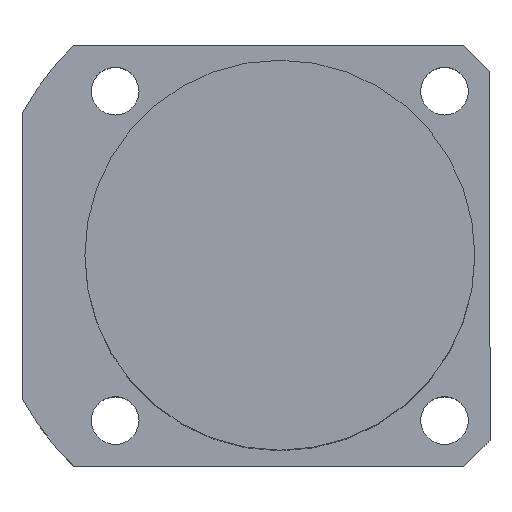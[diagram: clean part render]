
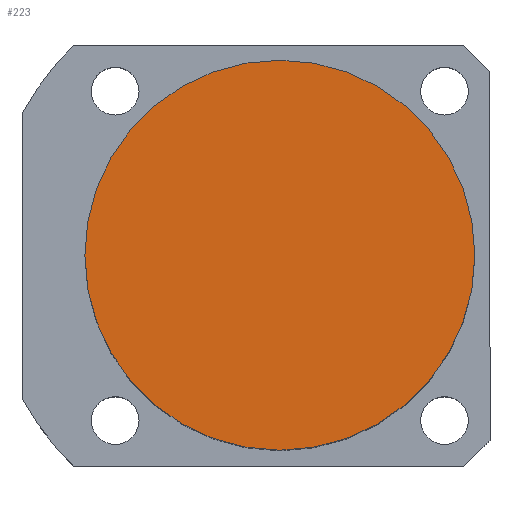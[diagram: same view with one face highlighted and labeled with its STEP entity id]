
A CAD part, top view. The second image highlights one B-rep face of the part: STEP entity #223.
In plain terms, the highlighted planar face has unit normal (0, 0, 1).
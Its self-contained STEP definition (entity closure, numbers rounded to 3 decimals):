
#44 = DIRECTION ( 'NONE',  ( 1., 0., 0. ) ) ;
#129 = CIRCLE ( 'NONE', #1620, 45. ) ;
#223 = ADVANCED_FACE ( 'NONE', ( #1780 ), #2006, .T. ) ;
#231 = ORIENTED_EDGE ( 'NONE', *, *, #1851, .T. ) ;
#507 = CARTESIAN_POINT ( 'NONE',  ( 0., 0., 104.5 ) ) ;
#555 = DIRECTION ( 'NONE',  ( 1., 0., 0. ) ) ;
#612 = CARTESIAN_POINT ( 'NONE',  ( 0., 0., 104.5 ) ) ;
#953 = EDGE_CURVE ( 'NONE', #964, #1864, #129, .T. ) ;
#964 = VERTEX_POINT ( 'NONE', #1232 ) ;
#1010 = AXIS2_PLACEMENT_3D ( 'NONE', #612, #1124, #1310 ) ;
#1093 = ORIENTED_EDGE ( 'NONE', *, *, #953, .T. ) ;
#1124 = DIRECTION ( 'NONE',  ( 0., 0., 1. ) ) ;
#1232 = CARTESIAN_POINT ( 'NONE',  ( -45., 0., 104.5 ) ) ;
#1259 = CIRCLE ( 'NONE', #1980, 45. ) ;
#1310 = DIRECTION ( 'NONE',  ( 1., 0., 0. ) ) ;
#1527 = CARTESIAN_POINT ( 'NONE',  ( 0., 0., 104.5 ) ) ;
#1620 = AXIS2_PLACEMENT_3D ( 'NONE', #1527, #1901, #555 ) ;
#1632 = EDGE_LOOP ( 'NONE', ( #1093, #231 ) ) ;
#1738 = CARTESIAN_POINT ( 'NONE',  ( 45., 0., 104.5 ) ) ;
#1780 = FACE_OUTER_BOUND ( 'NONE', #1632, .T. ) ;
#1851 = EDGE_CURVE ( 'NONE', #1864, #964, #1259, .T. ) ;
#1864 = VERTEX_POINT ( 'NONE', #1738 ) ;
#1901 = DIRECTION ( 'NONE',  ( 0., 0., 1. ) ) ;
#1980 = AXIS2_PLACEMENT_3D ( 'NONE', #507, #2046, #44 ) ;
#2006 = PLANE ( 'NONE',  #1010 ) ;
#2046 = DIRECTION ( 'NONE',  ( 0., 0., 1. ) ) ;
